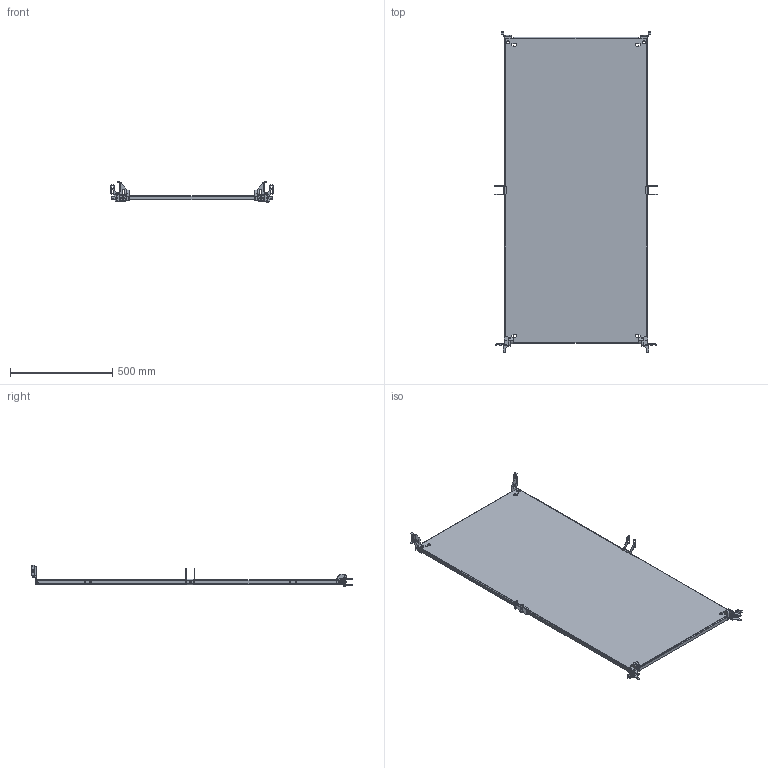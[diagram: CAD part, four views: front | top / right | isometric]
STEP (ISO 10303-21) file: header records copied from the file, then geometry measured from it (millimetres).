
FILE_DESCRIPTION (( 'STEP AP214' ), '1' );
FILE_NAME ('MSD 160.80 ÑÁ Ìîíòàæíàÿ ïàíåëü â ñáîðå.STEP', '2023-12-11T04:45:38', ( '' ), ( '' ), 'SwSTEP 2.0', 'SolidWorks 2019', '' );
FILE_SCHEMA (( 'AUTOMOTIVE_DESIGN' ));
Length unit declared in the file: millimetre
Products named in the file (8): MSD X.Y Ìîíòàæíàÿ ïàíåëü_MSD 160.80 Œ®­â ¦­ ï ¯ ­¥«ì; TS-010_R Âåðõíèé äåðæàòåëü ìîíòàæíîé ïàíåëè; BMD 6 Ôèêñàòîð ìîíòàæíîé ïàíåëè; TS-011_R Íèæíèé äåðæàòåëü ìîíòàæíîé ïàíåëè; TS-012 Íèæíèé äåðæàòåëü ìîíòàæíîé ïàíåëè; TS-011_L Íèæíèé äåðæàòåëü ìîíòàæíîé ïàíåëè; TS-010_L Âåðõíèé äåðæàòåëü ìîíòàæíîé ïàíåëè; MSD 160.80 ÑÁ Ìîíòàæíàÿ ïàíåëü â ñáîðå
Assembly tree (9 placements, depth 2):
  MSD 160.80 ÑÁ Ìîíòàæíàÿ ïàíåëü â ñáîðå
    MSD X.Y Ìîíòàæíàÿ ïàíåëü_MSD 160.80 Œ®­â ¦­ ï ¯ ­¥«ì
    TS-011_L Íèæíèé äåðæàòåëü ìîíòàæíîé ïàíåëè
    TS-011_R Íèæíèé äåðæàòåëü ìîíòàæíîé ïàíåëè
    TS-010_R Âåðõíèé äåðæàòåëü ìîíòàæíîé ïàíåëè
    TS-010_L Âåðõíèé äåðæàòåëü ìîíòàæíîé ïàíåëè
    TS-012 Íèæíèé äåðæàòåëü ìîíòàæíîé ïàíåëè  x2
    BMD 6 Ôèêñàòîð ìîíòàæíîé ïàíåëè  x2
Bounding box: 794 x 1571.5 x 103.7 mm (x, y, z)
Volume: 3081629 mm3; surface area: 2444315.3 mm2
Topology: 9 solids, 9 shells, 810 faces, 2202 edges, 1416 vertices
Faces by surface type: plane 450, cylinder 348, bspline 8, cone 4
Entity records: 20447 total; most frequent: CARTESIAN_POINT 3943, ORIENTED_EDGE 3396, DIRECTION 3384, EDGE_CURVE 1698, VECTOR 1156, LINE 1156, AXIS2_PLACEMENT_3D 1114, VERTEX_POINT 1094
